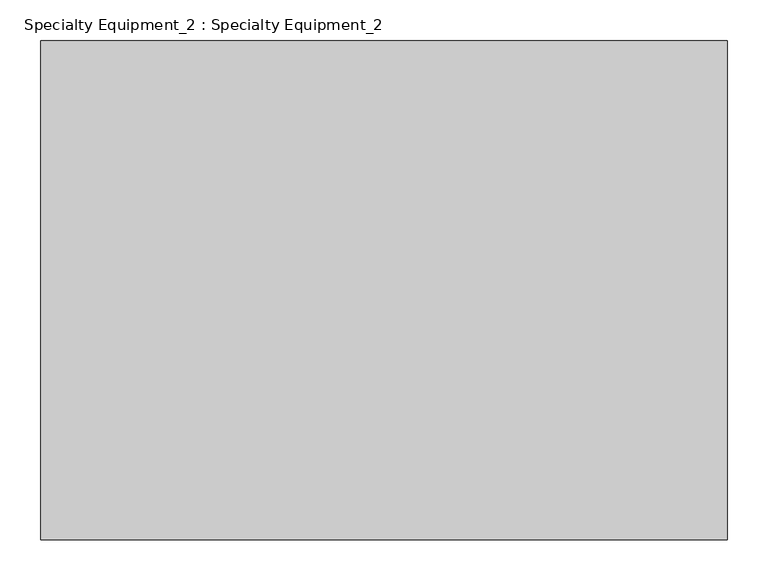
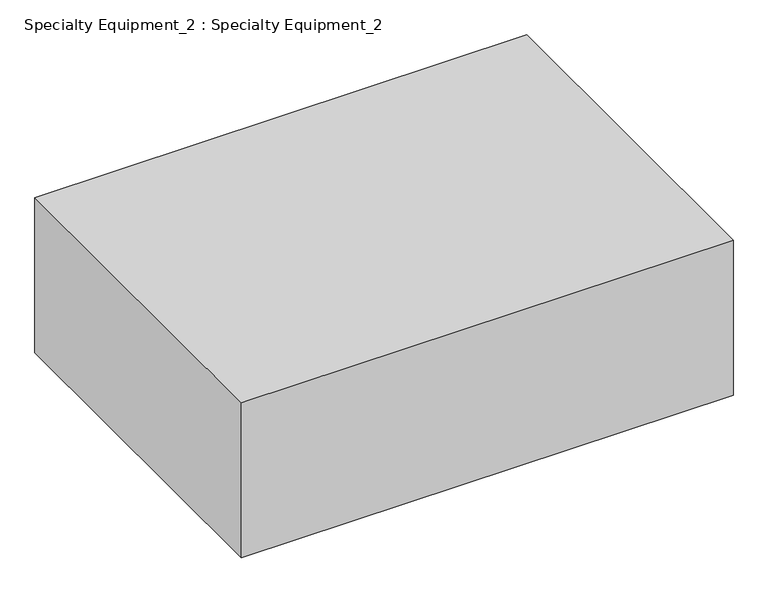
"""IFC4 building model written with IfcOpenShell, lengths in millimetres: proxy geometry, Specialty Equipment_2 : Specialty Equipment_2."""

from ifc_helpers import new_model, si_unit, origin, origin_with_axes, place, context, project, spatial, polyline, outline, extrude, source, transform, mapped, element, save


def specialty_equipment_2_specialty_equipment_2_f9cf8948(model_context):
    return source(origin(), model_context, "Body", "SweptSolid", [
        extrude(outline(polyline([(419.1, 0.0), (419.1, -609.6), (-419.1, -609.6), (-419.1, 0.0), (419.1, 0.0)])), origin_with_axes(), (0.0, 0.0, 1.0), 279.4),
    ])


if __name__ == "__main__":
    model = new_model("IFC4")
    model_context = context("Model", 3, world=origin())
    ifc_project = project(units=[si_unit("LENGTHUNIT", "METRE", prefix="MILLI")], contexts=[model_context])
    site = spatial("IfcSite", under=ifc_project)
    building = spatial("IfcBuilding", under=site)
    placement = place(None, origin())
    specialty_equipment_2_specialty_equipment_2_shape = specialty_equipment_2_specialty_equipment_2_f9cf8948(model_context)
    element("IfcBuildingElementProxy", 1, Name="Specialty Equipment_2 : Specialty Equipment_2", ObjectType="Specialty Equipment_2 : Specialty Equipment_2", at=placement, inside=building, context=model_context, shape_type="MappedRepresentation", body=[
        mapped(specialty_equipment_2_specialty_equipment_2_shape, transform((0.0, 0.0, 0.0), x_axis=(1.0, 0.0, 0.0), y_axis=(0.0, 1.0, 0.0), z_axis=(0.0, 0.0, 1.0))),
    ])
    save(model, "model.ifc")
